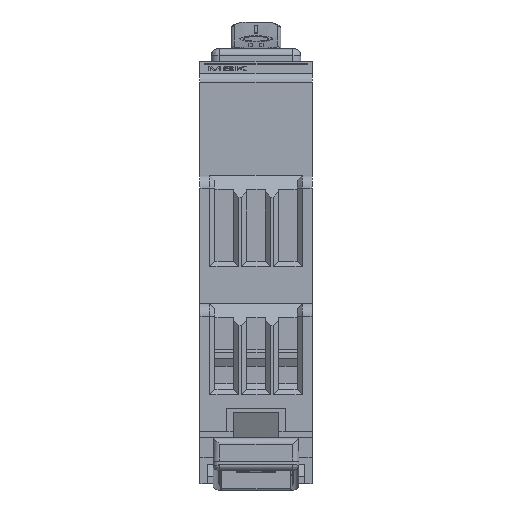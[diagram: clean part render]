
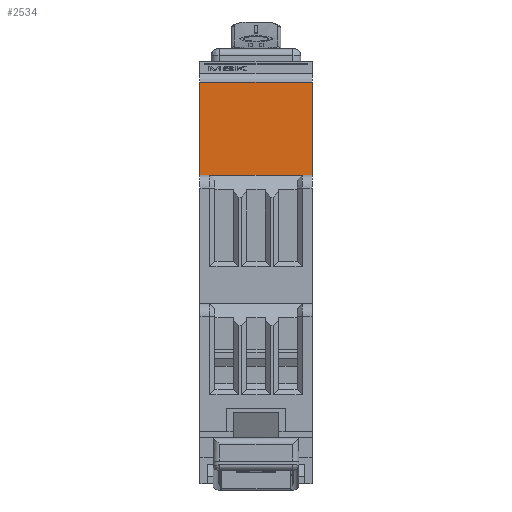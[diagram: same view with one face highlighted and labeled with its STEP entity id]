
A CAD part, left-side view. The second image highlights one B-rep face of the part: STEP entity #2534.
In plain terms, the highlighted planar face has unit normal (-1, 0, 0).
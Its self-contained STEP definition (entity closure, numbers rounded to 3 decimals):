
#2534=ADVANCED_FACE('NONE',(#4567),#3653,.F.);
#3653=PLANE('',#23516);
#4567=FACE_OUTER_BOUND('',#5801,.T.);
#5801=EDGE_LOOP('',(#8786,#8787,#8788,#8789));
#8786=ORIENTED_EDGE('',*,*,#16170,.T.);
#8787=ORIENTED_EDGE('',*,*,#15722,.T.);
#8788=ORIENTED_EDGE('',*,*,#16171,.F.);
#8789=ORIENTED_EDGE('',*,*,#16172,.T.);
#13418=VERTEX_POINT('',#32835);
#13419=VERTEX_POINT('',#32837);
#13734=VERTEX_POINT('',#33756);
#13735=VERTEX_POINT('',#33758);
#15722=EDGE_CURVE('NONE',#13419,#13418,#18676,.T.);
#16170=EDGE_CURVE('NONE',#13734,#13419,#19070,.T.);
#16171=EDGE_CURVE('NONE',#13735,#13418,#19071,.T.);
#16172=EDGE_CURVE('NONE',#13735,#13734,#19072,.T.);
#18676=LINE('',#32836,#21087);
#19070=LINE('',#33755,#21481);
#19071=LINE('',#33757,#21482);
#19072=LINE('',#33759,#21483);
#21087=VECTOR('',#26240,1.);
#21481=VECTOR('',#27054,1.);
#21482=VECTOR('',#27055,1.);
#21483=VECTOR('',#27056,1.);
#23516=AXIS2_PLACEMENT_3D('',#33760,#27057,#27058);
#26240=DIRECTION('',(0.,1.,0.));
#27054=DIRECTION('',(0.,0.,1.));
#27055=DIRECTION('',(0.,0.,1.));
#27056=DIRECTION('',(0.,-1.,0.));
#27057=DIRECTION('',(1.,0.,0.));
#27058=DIRECTION('',(0.,1.,0.));
#32835=CARTESIAN_POINT('',(-20.451,6.809,58.5));
#32836=CARTESIAN_POINT('',(-20.451,6.809,58.5));
#32837=CARTESIAN_POINT('',(-20.451,-10.691,58.5));
#33755=CARTESIAN_POINT('',(-20.451,-10.691,59.49));
#33756=CARTESIAN_POINT('',(-20.451,-10.691,44.));
#33757=CARTESIAN_POINT('',(-20.451,6.809,59.49));
#33758=CARTESIAN_POINT('',(-20.451,6.809,44.));
#33759=CARTESIAN_POINT('',(-20.451,6.809,44.));
#33760=CARTESIAN_POINT('',(-20.451,6.809,59.49));
